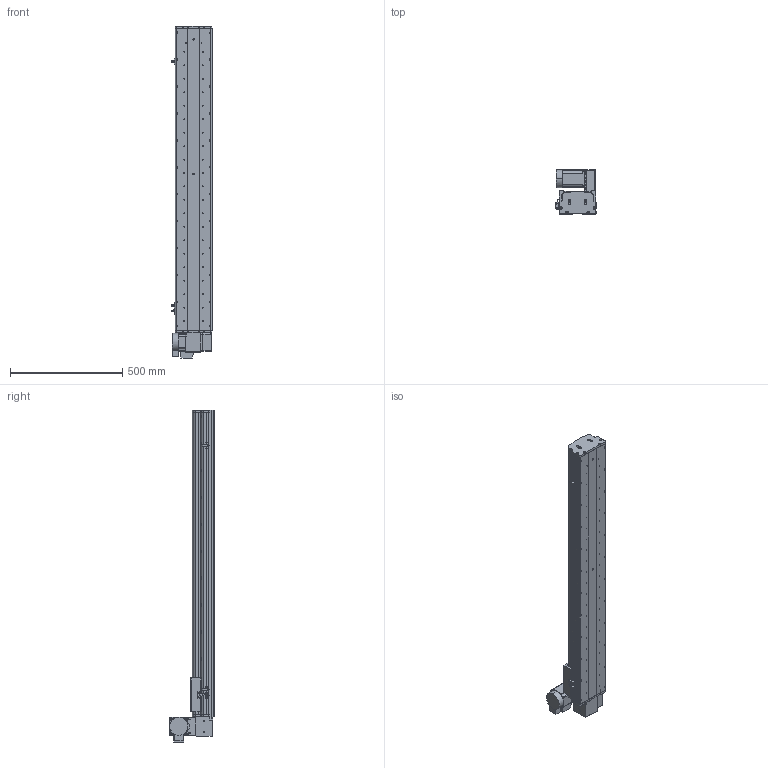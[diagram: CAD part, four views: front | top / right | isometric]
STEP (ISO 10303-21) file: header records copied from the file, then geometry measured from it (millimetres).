
FILE_DESCRIPTION (( 'STEP AP214' ), '1' );
FILE_NAME ('KSD165B-S1100-MRU-CM.STEP', '2017-10-17T02:41:15', ( '微软用户' ), ( '微软中国' ), 'SwSTEP 2.0', 'SolidWorks 2014', '' );
FILE_SCHEMA (( 'AUTOMOTIVE_DESIGN' ));
Length unit declared in the file: millimetre
Products named in the file (17): 165宽马达安装板同步带右; U倰嫖萇假蚾璃; U倰嫖萇EEㄜSX672; 覜茼え68遵圉猾敕; KSD165模组-同步带-防撞垫2; KSD165模组同步带-防撞垫1; KSD165耀郪-ヶ傷啣1-肮祭湍; KSD165模组-后端板1-同步带; KSD165模组-同步带滑动座-最新版; KSD165B-S1100-MRU-CM; 130宽模组马达安装板连板上下折丝杆同步带; 130宽模组保护罩上下左右折-同步带; HTPA26S5M250-A-H8 750W萇儂蚚; HTPA26S5M250-A-H8 400W萇儂蚚 ; KSD165模组-同步带防尘盖1-1100行程; KSD165模组同步带底板-1100行程; 拸秶雄ん750W侜督萇儂
Assembly tree (20 placements, depth 2):
  KSD165B-S1100-MRU-CM
    KSD165模组-同步带滑动座-最新版
    KSD165模组-后端板1-同步带
    KSD165耀郪-ヶ傷啣1-肮祭湍
    KSD165模组同步带-防撞垫1
    KSD165模组-同步带-防撞垫2
    覜茼え68遵圉猾敕
    U倰嫖萇EEㄜSX672  x3
    U倰嫖萇假蚾璃  x3
    165宽马达安装板同步带右
    拸秶雄ん750W侜督萇儂
    KSD165模组同步带底板-1100行程
    KSD165模组-同步带防尘盖1-1100行程
    HTPA26S5M250-A-H8 400W萇儂蚚 
    HTPA26S5M250-A-H8 750W萇儂蚚
    130宽模组保护罩上下左右折-同步带
    130宽模组马达安装板连板上下折丝杆同步带
Bounding box: 178.7 x 198 x 1480.5 mm (x, y, z)
Volume: 8366898.5 mm3; surface area: 1947378.4 mm2
Topology: 21 solids, 21 shells, 1989 faces, 5622 edges, 3672 vertices
Faces by surface type: cylinder 1287, plane 590, cone 112
Entity records: 64860 total; most frequent: CARTESIAN_POINT 13312, DIRECTION 10634, ORIENTED_EDGE 9904, EDGE_CURVE 4952, AXIS2_PLACEMENT_3D 4176, VERTEX_POINT 3264, CIRCLE 2384, LINE 2282
